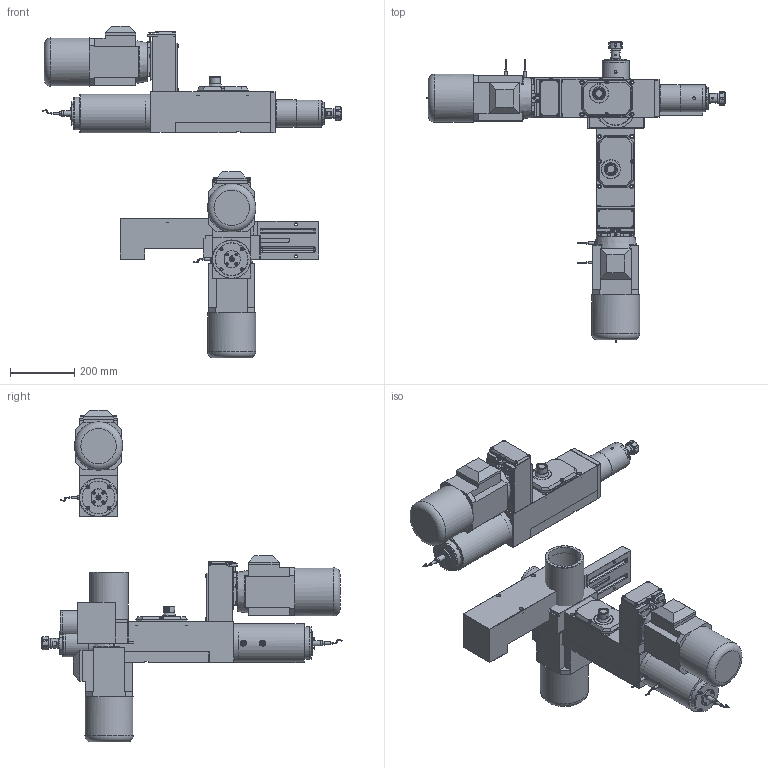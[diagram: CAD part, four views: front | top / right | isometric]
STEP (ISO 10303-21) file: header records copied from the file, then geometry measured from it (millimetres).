
FILE_DESCRIPTION( ( 'STEP AP203' ), '1' );
FILE_NAME( 'C:/Documents and Settings/Saverio/Desktop/disegni ironcad/unità serie 1/MC 112 A/MC 112 A_A02_P.stp', '2014-03-25T08:32:42', ( ' ' ), ( ' ' ), 'XStep 1.0', ' ', ' ' );
FILE_SCHEMA( ( 'CONFIG_CONTROL_DESIGN' ) );
Length unit declared in the file: metre
Products named in the file (59): Assem1; Assem2; Assem3; 1; 2; 3; 4; 5; 6; 7; 8; 9; 10; 11; 12; 13; 14; 15; 16; 17; 18; 19; 20; 21; 22; 23; 24; 25; 26; 27; 28; 29; 30; 31; 32; 33; 34; 35; 36; 37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
Bounding box: 931.75 x 933.55 x 1032.13 mm (x, y, z)
Volume: 41604436.9 mm3; surface area: 3856101.9 mm2
Topology: 168 solids, 168 shells, 3570 faces, 8076 edges, 5064 vertices
Faces by surface type: plane 2115, cylinder 813, cone 516, sphere 60, bspline 42, torus 24
Full cylindrical faces by diameter (mm): 3 x3, 4.134 x3, 4.5 x12, 5 x57, 5.5 x15, 6 x33, 6.5 x6, 6.75 x12, 6.9 x12, 7 x15, 8 x9, 8.385 x15, 8.5 x27, 9.87 x24, 12 x6, 13.5 x12, 16 x3, 18 x12, 20 x3, 20.5 x3, 23 x3, 28.9 x3, 30 x9, 30.5 x3, 32 x12, 41 x3, 42 x3, 50 x6, 52 x3, 52.5 x3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
Entity records: 36990 total; most frequent: CARTESIAN_POINT 9120, DIRECTION 5227, ORIENTED_EDGE 4740, EDGE_CURVE 2370, AXIS2_PLACEMENT_3D 1946, VERTEX_POINT 1636, EDGE_LOOP 1630, LINE 1335
